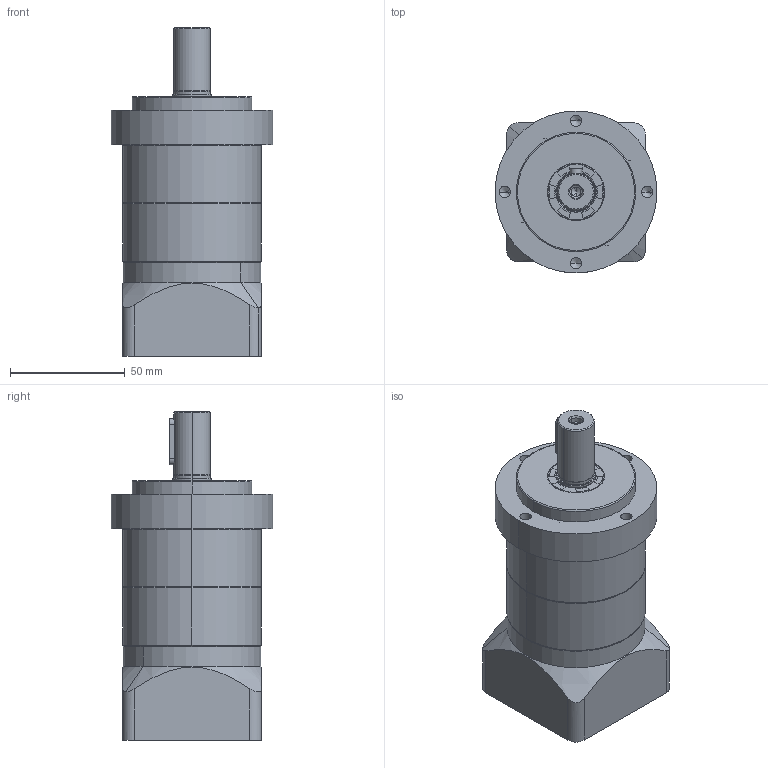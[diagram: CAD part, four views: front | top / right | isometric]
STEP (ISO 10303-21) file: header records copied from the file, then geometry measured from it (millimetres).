
FILE_DESCRIPTION (( 'STEP AP203' ), '1' );
FILE_NAME ('NA60-L2(6.35-38.1-66.67-M4).STEP', '2022-03-11T17:55:21', ( '' ), ( '' ), 'SwSTEP 2.0', 'SolidWorks 2016', '' );
FILE_SCHEMA (( 'CONFIG_CONTROL_DESIGN' ));
Length unit declared in the file: millimetre
Products named in the file (9): SN60; SN60-(14); SN60-(16x29-5x20); SN60-34x20x10.5-M5; SN60-(38.1-66.67-M4); NA60-(52x6-62-M5); 60-(o14-6.35x17); NA60-L2(6.35-38.1-66.67-M4); SN60-17x25x4
Assembly tree (9 placements, depth 2):
  NA60-L2(6.35-38.1-66.67-M4)
    NA60-(52x6-62-M5)
    SN60-17x25x4
    SN60-(16x29-5x20)
    SN60  x2
    SN60-(38.1-66.67-M4)
    SN60-(14)
    SN60-34x20x10.5-M5
    60-(o14-6.35x17)
Bounding box: 70.5 x 70.5 x 143 mm (x, y, z)
Volume: 339690.1 mm3; surface area: 79528.1 mm2
Topology: 12 solids, 12 shells, 438 faces, 1093 edges, 684 vertices
Faces by surface type: cylinder 218, plane 107, cone 66, bspline 39, torus 8
Entity records: 31926 total; most frequent: CARTESIAN_POINT 21476, ORIENTED_EDGE 2058, DIRECTION 1912, EDGE_CURVE 1029, AXIS2_PLACEMENT_3D 753, VERTEX_POINT 660, EDGE_LOOP 485, FACE_OUTER_BOUND 422
